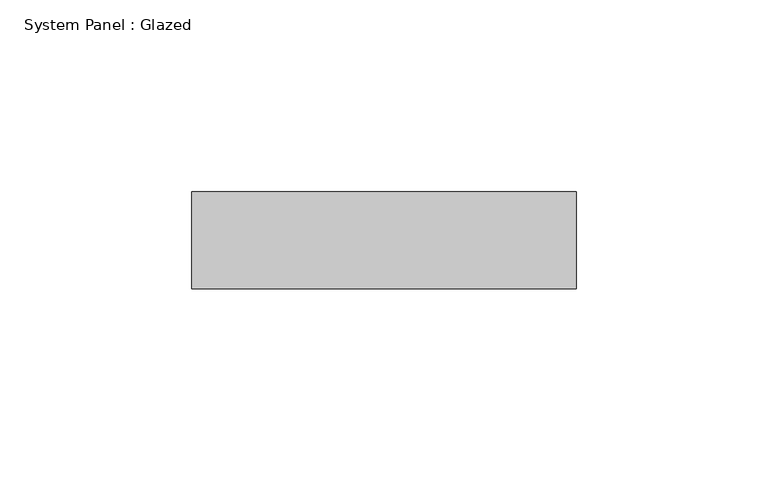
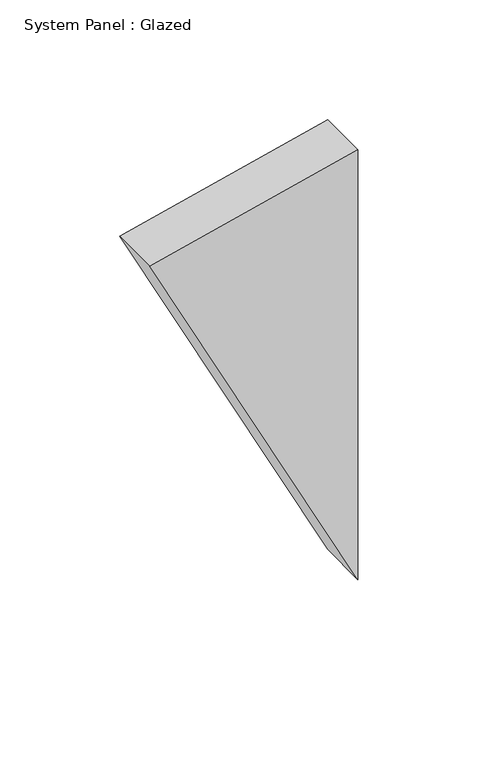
"""IFC4 building model written with IfcOpenShell, lengths in millimetres: plate geometry, System Panel : Glazed."""

from ifc_helpers import new_model, si_unit, frame, origin, place, context, project, spatial, polyline, outline, extrude, source, transform, mapped, element, save


def system_panel_glazed_9c9b509f(model_context):
    return source(origin(), model_context, "Body", "SweptSolid", [
        extrude(outline(polyline([(195.032015, -50.2226376), (0.0, 50.2226376), (219.3780759, 50.2221274), (195.032015, -50.2226376)])), frame((0.0, 19.05, 0.0), z_axis=(0.0, 1.0, 0.0), x_axis=(0.0, 0.0, 1.0)), (0.0, 0.0, 1.0), 25.4),
    ])


if __name__ == "__main__":
    model = new_model("IFC4")
    model_context = context("Model", 3, world=origin())
    ifc_project = project(units=[si_unit("LENGTHUNIT", "METRE", prefix="MILLI")], contexts=[model_context])
    site = spatial("IfcSite", under=ifc_project)
    building = spatial("IfcBuilding", under=site)
    placement = place(None, origin())
    system_panel_glazed_shape = system_panel_glazed_9c9b509f(model_context)
    element("IfcPlate", 1, ObjectType="System Panel : Glazed", at=placement, inside=building, context=model_context, shape_type="MappedRepresentation", body=[
        mapped(system_panel_glazed_shape, transform((0.0, 0.0, 0.0), x_axis=(1.0, 0.0, 0.0), y_axis=(0.0, 1.0, 0.0), z_axis=(0.0, 0.0, 1.0))),
    ])
    save(model, "model.ifc")
